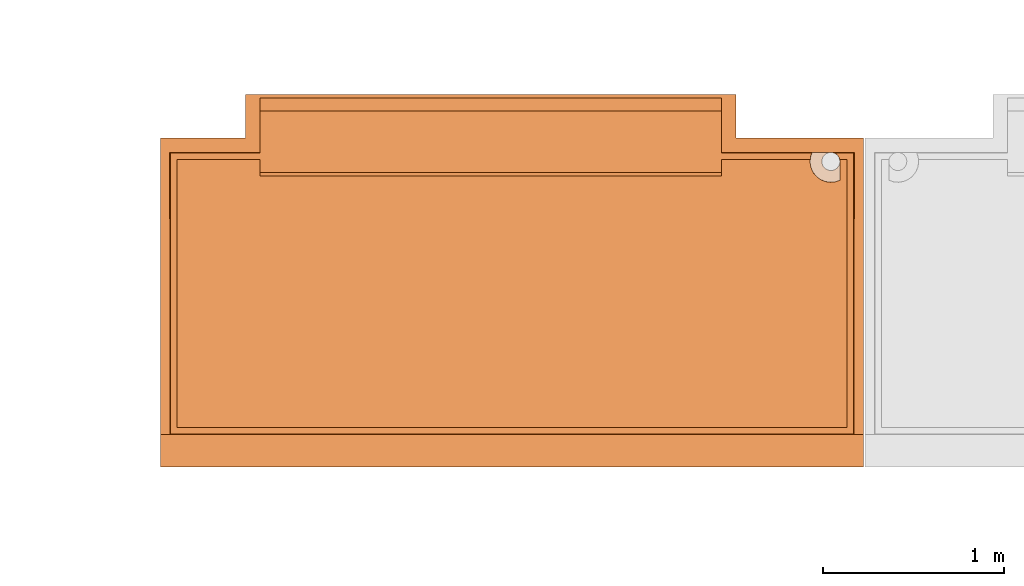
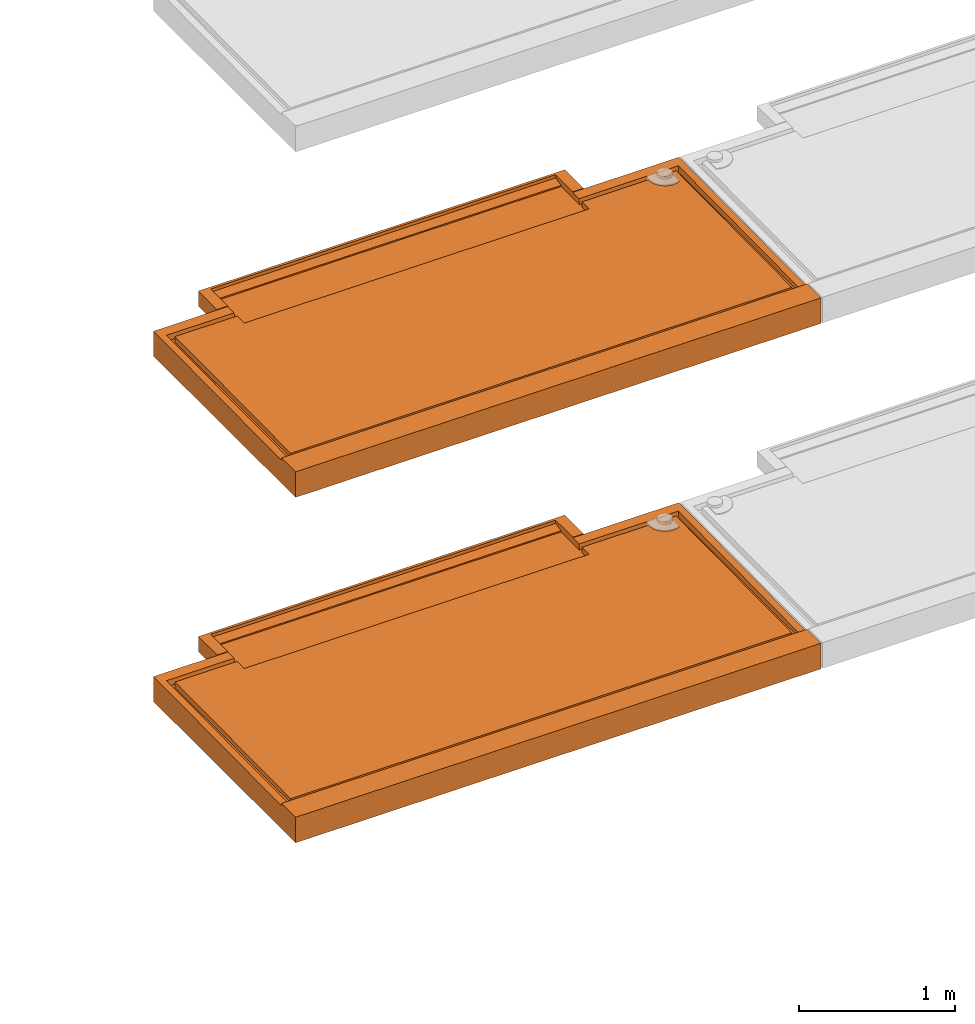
# One storey, part 9 of 31: 2 proxies, 2 elements without a shape of their own.
"""IFC2X3 building model written with IfcOpenShell, lengths in centimetres."""

from ifc_helpers import new_model, entity, si_unit, converted_unit, derived_unit, direction, frame, origin, place, context, subcontext, project, spatial, faceted_brep, source, transform, mapped, material, type_object, type_shapes, element, aggregate, save


model = new_model("IFC2X3")

# Units and contexts
model_context = context("Model", 3, precision=0.001, world=origin(), true_north=direction((6.12303176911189e-17, 1.0)))
body_context = subcontext(model_context, "Body", "Model", "MODEL_VIEW")
ifc_project = project(units=[si_unit("LENGTHUNIT", "METRE", prefix="CENTI"), si_unit("AREAUNIT", "SQUARE_METRE"), si_unit("VOLUMEUNIT", "CUBIC_METRE"), converted_unit("PLANEANGLEUNIT", "DEGREE", entity("IfcRatioMeasure", 0.0174532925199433), si_unit("PLANEANGLEUNIT", "RADIAN"), dimensions=[0, 0, 0, 0, 0, 0, 0]), si_unit("MASSUNIT", "GRAM", prefix="KILO"), derived_unit("MASSDENSITYUNIT", [(si_unit("MASSUNIT", "GRAM", prefix="KILO"), 1), (si_unit("LENGTHUNIT", "METRE"), -3)]), si_unit("TIMEUNIT", "SECOND"), si_unit("FREQUENCYUNIT", "HERTZ"), si_unit("THERMODYNAMICTEMPERATUREUNIT", "DEGREE_CELSIUS"), derived_unit("THERMALTRANSMITTANCEUNIT", [(si_unit("MASSUNIT", "GRAM", prefix="KILO"), 1), (si_unit("THERMODYNAMICTEMPERATUREUNIT", "KELVIN"), -1), (si_unit("TIMEUNIT", "SECOND"), -3)]), derived_unit("VOLUMETRICFLOWRATEUNIT", [(si_unit("LENGTHUNIT", "METRE"), 3), (si_unit("TIMEUNIT", "SECOND"), -1)]), si_unit("ELECTRICCURRENTUNIT", "AMPERE"), si_unit("ELECTRICVOLTAGEUNIT", "VOLT"), si_unit("POWERUNIT", "WATT"), si_unit("FORCEUNIT", "NEWTON"), si_unit("ILLUMINANCEUNIT", "LUX"), si_unit("LUMINOUSFLUXUNIT", "LUMEN"), si_unit("LUMINOUSINTENSITYUNIT", "CANDELA"), derived_unit("USERDEFINED", [(si_unit("MASSUNIT", "GRAM", prefix="KILO"), -1), (si_unit("LENGTHUNIT", "METRE"), -2), (si_unit("TIMEUNIT", "SECOND"), 3), (si_unit("LUMINOUSFLUXUNIT", "LUMEN"), 1)]), derived_unit("LINEARVELOCITYUNIT", [(si_unit("LENGTHUNIT", "METRE"), 1), (si_unit("TIMEUNIT", "SECOND"), -1)]), si_unit("PRESSUREUNIT", "PASCAL"), derived_unit("USERDEFINED", [(si_unit("LENGTHUNIT", "METRE"), -2), (si_unit("MASSUNIT", "GRAM", prefix="KILO"), 1), (si_unit("TIMEUNIT", "SECOND"), -2)])], contexts=[model_context])

# Site, building, storey
site_placement = place(None, origin())
site = spatial("IfcSite", under=ifc_project, at=site_placement, Name="Default", CompositionType="ELEMENT")
building_placement = place(site_placement, origin())
building = spatial("IfcBuilding", under=site, at=building_placement, Name="CAGE 03", CompositionType="ELEMENT")
storey_placement = place(building_placement, frame((0.0, 0.0, -400.0)))
storey = spatial("IfcBuildingStorey", under=building, at=storey_placement, Name="±0.00", CompositionType="ELEMENT", Elevation=-400.0)

# Assembly, proxy
assembly_1_placement = place(storey_placement, origin())
assembly_1 = element("IfcElementAssembly", 1, at=assembly_1_placement, inside=storey, Name="Assemblage Modèles génériques:BALCON TYPE 03", ObjectType="Assemblage Modèles génériques:BALCON TYPE 03", AssemblyPlace="NOTDEFINED", PredefinedType="USERDEFINED")
ifc_material = material(Name="Béton, panneaux préfa 30/37")
building_element_proxy_type_1 = type_object("IfcBuildingElementProxyType", Name="balcon préfa type 03", PredefinedType="NOTDEFINED", material=ifc_material)
shared_shape_1 = source(origin(), body_context, "Body", "Brep", [
    faceted_brep([(9.0, 22.0, 15.0), (9.0, 170.0, 15.0), (55.0, 170.0, 15.0), (55.0, 163.0, 15.0), (310.0, 163.0, 15.0), (310.0, 170.0, 15.0), (359.043560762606, 170.0, 15.0), (359.350476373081, 171.817467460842, 15.0), (359.943813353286, 173.56255668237, 15.0), (310.0, 173.562556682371, 15.0), (310.0, 197.0, 15.0), (55.0, 197.0, 15.0), (55.0, 173.562556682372, 15.0), (5.43744331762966, 173.562556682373, 15.0), (5.4374433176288, 18.4374433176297, 15.0), (383.06255668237, 18.4374433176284, 15.0), (383.06255668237, 173.56255668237, 15.0), (372.545257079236, 173.56255668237, 15.0), (373.559340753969, 172.954798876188, 15.0), (374.402378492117, 172.125930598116, 15.0), (375.027236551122, 171.122293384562, 15.0), (375.398979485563, 170.0, 15.0), (379.5, 170.0, 15.0), (379.499999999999, 22.0, 15.0), (47.0, 182.0, 20.0), (55.0, 182.0, 20.0), (55.0, 204.0, 20.0), (310.0, 204.0, 20.0), (310.0, 182.0, 20.0), (318.0, 182.0, 20.0), (318.0, 198.0, 20.0), (318.0, 206.0, 20.0), (47.0, 206.0, 20.0), (47.0, 198.0, 20.0), (388.499999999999, 0.0, 20.0), (388.499999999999, 18.0, 20.0), (0.0, 18.0, 20.0), (0.0, 0.0, 20.0), (47.0, 206.0, 8.0), (318.0, 206.0, 8.0), (4.0, 180.0, 0.0), (4.0, 182.0, 0.0), (365.499999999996, 169.0, 0.0), (365.67037086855, 167.705904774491, 0.0), (4.0, 4.0, 0.0), (365.67037086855, 170.294095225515, 0.0), (366.169872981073, 171.500000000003, 0.0), (366.964466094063, 172.535533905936, 0.0), (368.0, 173.330127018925, 0.0), (384.5, 182.0, 0.0), (369.205904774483, 173.829629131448, 0.0), (370.499999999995, 174.0, 0.0), (371.794095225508, 173.829629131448, 0.0), (373.0, 173.330127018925, 0.0), (384.5, 180.0, 0.0), (374.035533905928, 172.535533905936, 0.0), (374.830127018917, 171.500000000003, 0.0), (375.329629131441, 170.294095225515, 0.0), (375.499999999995, 169.0, 0.0), (375.329629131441, 167.705904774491, 0.0), (374.830127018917, 166.500000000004, 0.0), (384.499999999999, 4.0, 0.0), (366.169872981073, 166.500000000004, 0.0), (366.964466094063, 165.46446609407, 0.0), (368.0, 164.669872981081, 0.0), (369.205904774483, 164.170370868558, 0.0), (370.499999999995, 164.0, 0.0), (374.035533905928, 165.46446609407, 0.0), (373.0, 164.669872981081, 0.0), (371.794095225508, 164.170370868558, 0.0), (0.0, 182.0, 0.0), (3.0, 182.0, 0.0), (3.0, 180.0, 0.0), (3.0, 3.0, 0.0), (385.499999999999, 3.0, 0.0), (385.5, 180.0, 0.0), (385.5, 182.0, 0.0), (388.5, 182.0, 0.0), (388.5, 180.0, 0.0), (388.499999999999, 0.0, 0.0), (0.0, 0.0, 0.0), (0.0, 180.0, 0.0), (0.0, 18.177465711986, 17.9715576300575), (5.17746571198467, 18.177465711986, 17.9715576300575), (5.04116008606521, 173.958839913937, 19.5295380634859), (55.0, 173.958839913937, 19.5295380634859), (55.0, 180.0, 19.5899561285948), (55.0, 182.0, 19.6099582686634), (47.0, 182.0, 19.6099582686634), (0.0, 182.0, 19.6099582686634), (0.0, 180.0, 19.5899561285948), (9.0, 22.0, 18.0097870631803), (379.499999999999, 22.0, 18.0097870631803), (379.499999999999, 170.0, 19.4899454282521), (375.398979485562, 170.0, 19.4899454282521), (375.474680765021, 169.502544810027, 19.4849703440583), (375.499999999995, 169.0, 19.4799443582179), (375.499999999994, 158.643842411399, 19.3763717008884), (372.960376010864, 157.766276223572, 19.3675950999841), (370.286434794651, 157.501983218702, 19.3649518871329), (367.624152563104, 157.865391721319, 19.3685863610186), (365.118869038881, 158.836662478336, 19.3783001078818), (362.907353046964, 160.362771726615, 19.3935628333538), (361.110336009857, 162.360405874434, 19.413541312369), (359.82592095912, 164.720509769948, 19.4371448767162), (359.124226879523, 167.31424025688, 19.463084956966), (359.043560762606, 170.0, 19.4899454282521), (310.0, 170.0, 19.4899454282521), (310.0, 161.001802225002, 19.3999538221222), (55.0, 161.001802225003, 19.3999538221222), (55.0, 170.0, 19.4899454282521), (9.0, 170.0, 19.4899454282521), (318.0, 182.0, 19.6099582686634), (310.0, 182.0, 19.6099582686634), (310.0, 180.0, 19.5899561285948), (310.0, 173.958839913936, 19.5295380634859), (360.124070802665, 173.958839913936, 19.5295380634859), (360.133936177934, 173.979429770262, 19.5297439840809), (360.14384241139, 174.0, 19.5299497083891), (370.499999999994, 174.0, 19.5299497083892), (370.820780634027, 173.989699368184, 19.5298466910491), (371.140239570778, 173.958839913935, 19.5295380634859), (383.458839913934, 173.958839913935, 19.5295380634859), (383.322534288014, 18.1774657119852, 17.9715576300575), (388.499999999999, 18.1774657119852, 17.9715576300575), (388.5, 180.0, 19.5899561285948), (388.5, 182.0, 19.6099582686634), (55.0, 161.026803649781, 16.9000788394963), (310.0, 161.02680364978, 16.9000788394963), (310.0, 197.0, 15.9713250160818), (310.0, 204.0, 17.4999999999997), (310.0, 163.0, 16.9198129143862), (55.0, 163.0, 16.9198129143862), (3.0, 3.0, 1.0), (385.499999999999, 3.0, 1.0), (55.0, 204.0, 17.4999999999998), (47.0, 198.0, 8.0), (318.0, 198.0, 8.0), (318.0, 182.0, 8.0), (47.0, 182.0, 8.0), (385.5, 182.0, 1.0), (384.5, 182.0, 1.46630765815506), (4.0, 182.0, 1.46630765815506), (3.0, 182.0, 1.0), (55.0, 197.0, 15.9713250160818), (4.0, 4.0, 1.46630765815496), (384.499999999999, 4.0, 1.46630765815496), (360.032066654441, 173.76155137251, 17.2745197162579), (360.078068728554, 173.860195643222, 18.4020288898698), (360.10106976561, 173.909517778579, 18.9657834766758), (360.112570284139, 173.934178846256, 19.2476607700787), (359.987940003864, 173.66205402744, 16.1372598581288), (371.501449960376, 173.898683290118, 18.8419447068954), (371.857288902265, 173.812251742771, 17.854027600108), (372.205847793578, 173.700008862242, 16.5710856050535), (385.5, 180.0, 1.0), (384.5, 180.0, 1.46630765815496), (3.0, 180.0, 1.0), (4.0, 180.0, 1.46630765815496), (359.23557807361, 171.315771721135, 7.69999999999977), (359.011272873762, 168.49093318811, 7.69999999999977), (359.484546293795, 165.697004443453, 7.69999999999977), (360.626661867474, 163.103628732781, 7.69999999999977), (362.36827201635, 160.868272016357, 7.69999999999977), (364.603628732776, 159.12666186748, 7.69999999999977), (367.197004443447, 157.984546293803, 7.69999999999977), (369.990933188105, 157.51127287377, 7.69999999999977), (372.81577172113, 157.735578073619, 7.69999999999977), (375.499999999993, 158.643842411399, 7.69999999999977), (375.499999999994, 169.0, 7.69999999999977), (375.32962913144, 167.705904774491, 7.69999999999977), (374.830127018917, 166.500000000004, 7.69999999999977), (374.035533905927, 165.46446609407, 7.69999999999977), (373.0, 164.669872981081, 7.69999999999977), (371.794095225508, 164.170370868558, 7.69999999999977), (370.499999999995, 164.0, 7.69999999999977), (369.205904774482, 164.170370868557, 7.69999999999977), (368.0, 164.66987298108, 7.69999999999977), (366.964466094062, 165.46446609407, 7.69999999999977), (366.169872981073, 166.500000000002, 7.69999999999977), (365.67037086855, 167.705904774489, 7.69999999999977), (365.499999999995, 169.0, 7.69999999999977), (365.670370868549, 170.294095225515, 7.69999999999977), (366.169872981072, 171.500000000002, 7.69999999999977), (366.964466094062, 172.535533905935, 7.69999999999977), (368.0, 173.330127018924, 7.69999999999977), (369.205904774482, 173.829629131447, 7.69999999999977), (370.49999999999, 174.0, 7.69999999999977), (360.143842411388, 174.0, 7.69999999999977), (360.14384241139, 174.0, 19.1602570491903), (360.14384241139, 174.0, 18.790571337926), (360.14384241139, 174.0, 18.0511999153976), (360.14384241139, 174.0, 16.5724570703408), (360.14384241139, 174.0, 15.0937142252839), (360.14384241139, 174.0, 13.6149713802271)], [[[0, 1, 2, 3, 4, 5, 6, 7, 8, 9, 10, 11, 12, 13, 14, 15, 16, 17, 18, 19, 20, 21, 22, 23]], [[24, 25, 26, 27, 28, 29, 30, 31, 32, 33]], [[34, 35, 36, 37]], [[38, 32, 31, 39]], [[40, 41, 42]], [[43, 40, 42]], [[43, 44, 40]], [[42, 41, 45]], [[45, 41, 46]], [[47, 46, 41]], [[48, 47, 41]], [[48, 41, 49]], [[49, 50, 48]], [[51, 50, 49]], [[52, 51, 49]], [[53, 52, 49]], [[54, 53, 49]], [[54, 55, 53]], [[56, 55, 54]], [[54, 57, 56]], [[58, 57, 54]], [[59, 58, 54]], [[54, 60, 59]], [[61, 60, 54]], [[61, 44, 62]], [[61, 62, 63]], [[61, 63, 64]], [[61, 64, 65]], [[61, 65, 66]], [[67, 60, 61]], [[67, 61, 68]], [[69, 68, 61]], [[61, 66, 69]], [[62, 44, 43]], [[70, 71, 72, 73, 74, 75, 76, 77, 78, 79, 80, 81]], [[37, 80, 79, 34]], [[82, 83, 84, 85, 86, 87, 88, 89, 90]], [[91, 92, 93, 94, 95, 96, 97, 98, 99, 100, 101, 102, 103, 104, 105, 106, 107, 108, 109, 110, 111]], [[112, 113, 114, 115, 116, 117, 118, 119, 120, 121, 122, 123, 124, 125, 126]], [[127, 109, 108, 128]], [[78, 77, 126, 125, 124, 35, 34, 79]], [[80, 37, 36, 82, 90, 89, 70, 81]], [[129, 10, 9, 115, 114, 113, 28, 27, 130]], [[107, 5, 4, 131, 128, 108]], [[92, 23, 22, 93]], [[123, 122, 16, 15]], [[0, 23, 92, 91]], [[132, 127, 128, 131]], [[3, 132, 131, 4]], [[123, 15, 14, 83, 82, 36, 35, 124]], [[133, 134, 74, 73]], [[26, 135, 130, 27]], [[136, 38, 39, 137, 138, 139]], [[89, 88, 139, 138, 112, 126, 77, 76, 140, 141, 49, 41, 142, 143, 71, 70]], [[135, 26, 25, 87, 86, 85, 12, 11, 144]], [[110, 109, 127, 132, 3, 2]], [[106, 6, 5, 107]], [[110, 2, 1, 111]], [[22, 21, 94, 93]], [[145, 44, 61, 146]], [[144, 11, 10, 129]], [[135, 144, 129, 130]], [[147, 148, 149, 150, 116, 115, 9, 8, 151]], [[85, 84, 13, 12]], [[122, 121, 152, 153, 154, 17, 16]], [[133, 145, 146, 134]], [[29, 28, 113, 112]], [[25, 24, 88, 87]], [[76, 75, 74, 134, 155, 140]], [[156, 146, 61, 54, 49, 141]], [[155, 134, 146, 156, 141, 140]], [[73, 72, 71, 143, 157, 133]], [[158, 142, 41, 40, 44, 145]], [[145, 133, 157, 143, 142, 158]], [[1, 0, 91, 111]], [[13, 84, 83, 14]], [[30, 29, 112, 138, 137, 39, 31]], [[33, 32, 38, 136, 139, 88, 24]], [[159, 160, 161, 162, 163, 164, 165, 166, 167, 168, 169, 170, 171, 172, 173, 174, 175, 176, 177, 178, 179, 180, 181, 182, 183, 184, 185, 186, 187, 188]], [[119, 118, 189, 190, 191, 192, 193, 194, 188, 187]], [[194, 8, 7]], [[159, 188, 7]], [[150, 189, 117]], [[151, 192, 147]], [[105, 160, 6]], [[7, 6, 159]], [[160, 159, 6]], [[105, 161, 160]], [[117, 116, 150]], [[189, 149, 190]], [[148, 191, 190]], [[6, 106, 105]], [[104, 161, 105]], [[149, 148, 190]], [[150, 149, 189]], [[188, 194, 7]], [[104, 162, 161]], [[163, 162, 103]], [[163, 102, 164]], [[99, 167, 166]], [[166, 165, 100]], [[165, 164, 101]], [[168, 167, 98]], [[148, 147, 191]], [[163, 103, 102]], [[164, 102, 101]], [[8, 193, 151]], [[8, 194, 193]], [[167, 99, 98]], [[118, 117, 189]], [[192, 191, 147]], [[97, 168, 98]], [[166, 100, 99]], [[100, 165, 101]], [[192, 151, 193]], [[104, 103, 162]], [[169, 168, 97, 96]], [[48, 50, 186, 185]], [[48, 185, 184, 47]], [[45, 46, 183, 182]], [[184, 183, 46, 47]], [[42, 45, 182, 181]], [[51, 187, 186, 50]], [[62, 43, 180, 179]], [[62, 179, 178, 63]], [[65, 64, 177, 176]], [[178, 177, 64, 63]], [[66, 65, 176, 175]], [[181, 180, 43, 42]], [[69, 174, 173, 68]], [[66, 175, 174, 69]], [[171, 170, 59, 60]], [[60, 67, 172, 171]], [[67, 68, 173, 172]], [[58, 59, 170, 169]], [[96, 95, 169]], [[21, 169, 95]], [[94, 21, 95]], [[57, 169, 21]], [[57, 58, 169]], [[20, 56, 57]], [[56, 20, 19]], [[19, 55, 56]], [[187, 51, 52]], [[53, 55, 18]], [[53, 17, 52]], [[19, 18, 55]], [[52, 152, 187]], [[53, 18, 17]], [[17, 154, 52]], [[152, 52, 153]], [[152, 121, 187]], [[153, 52, 154]], [[121, 120, 187]], [[187, 120, 119]], [[57, 21, 20]]]),
])
type_shapes(building_element_proxy_type_1, [shared_shape_1])
proxy_1_placement = place(assembly_1_placement, frame((6692.36582014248, 3796.6606660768, 990.0)))
proxy_1 = element("IfcBuildingElementProxy", 2, at=proxy_1_placement, type_object=building_element_proxy_type_1, material=ifc_material, Name="BY_STR_Balcon_préfa_03:balcon préfa type 03", ObjectType="balcon préfa type 03", context=body_context, shape_type="MappedRepresentation", body=[
    mapped(shared_shape_1, transform((0.0, 0.0, 0.0), scale=1.0)),
])
aggregate(assembly_1, [proxy_1])

assembly_2_placement = place(storey_placement, origin())
assembly_2 = element("IfcElementAssembly", 3, at=assembly_2_placement, inside=storey, Name="Assemblage Modèles génériques:BALCON TYPE 03", ObjectType="Assemblage Modèles génériques:BALCON TYPE 03", AssemblyPlace="NOTDEFINED", PredefinedType="USERDEFINED")
building_element_proxy_type_2 = type_object("IfcBuildingElementProxyType", Name="balcon préfa type 03", PredefinedType="NOTDEFINED", material=ifc_material)
shared_shape_2 = source(origin(), body_context, "Body", "Brep", [
    faceted_brep([(9.0, 22.0, 15.0), (9.0, 170.0, 15.0), (55.0, 170.0, 15.0), (55.0, 163.0, 15.0), (310.0, 163.0, 15.0), (310.0, 170.0, 15.0), (359.043560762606, 170.0, 15.0), (359.350476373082, 171.817467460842, 15.0), (359.943813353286, 173.56255668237, 15.0), (310.0, 173.562556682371, 15.0), (310.0, 197.0, 15.0), (55.0, 197.0, 15.0), (55.0, 173.562556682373, 15.0), (5.43744331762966, 173.562556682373, 15.0), (5.4374433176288, 18.4374433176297, 15.0), (383.06255668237, 18.4374433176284, 15.0), (383.06255668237, 173.56255668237, 15.0), (372.54525707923, 173.56255668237, 15.0), (373.559340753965, 172.954798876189, 15.0), (374.402378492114, 172.125930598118, 15.0), (375.027236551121, 171.122293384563, 15.0), (375.398979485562, 170.0, 15.0), (379.5, 170.0, 15.0), (379.499999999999, 22.0, 15.0), (47.0, 182.0, 20.0), (55.0, 182.0, 20.0), (55.0, 204.0, 20.0), (310.0, 204.0, 20.0), (310.0, 182.0, 20.0), (318.0, 182.0, 20.0), (318.0, 198.0, 20.0), (318.0, 206.0, 20.0), (47.0, 206.0, 20.0), (47.0, 198.0, 20.0), (388.499999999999, 0.0, 20.0), (388.499999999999, 18.0, 20.0), (0.0, 18.0, 20.0), (0.0, 0.0, 20.0), (47.0, 206.0, 8.0), (318.0, 206.0, 8.0), (4.0, 180.0, 0.0), (4.0, 182.0, 0.0), (365.499999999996, 169.0, 0.0), (365.67037086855, 167.705904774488, 0.0), (4.0, 4.0, 0.0), (365.67037086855, 170.294095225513, 0.0), (366.169872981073, 171.500000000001, 0.0), (366.964466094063, 172.535533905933, 0.0), (368.0, 173.330127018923, 0.0), (384.5, 182.0, 0.0), (369.205904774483, 173.829629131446, 0.0), (370.499999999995, 174.0, 0.0), (371.794095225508, 173.829629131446, 0.0), (373.0, 173.330127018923, 0.0), (384.5, 180.0, 0.0), (374.035533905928, 172.535533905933, 0.0), (374.830127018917, 171.500000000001, 0.0), (375.329629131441, 170.294095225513, 0.0), (375.499999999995, 169.0, 0.0), (375.329629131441, 167.705904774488, 0.0), (374.830127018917, 166.500000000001, 0.0), (384.499999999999, 4.0, 0.0), (366.169872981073, 166.500000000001, 0.0), (366.964466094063, 165.464466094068, 0.0), (368.0, 164.669872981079, 0.0), (369.205904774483, 164.170370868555, 0.0), (370.499999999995, 164.0, 0.0), (374.035533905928, 165.464466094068, 0.0), (373.0, 164.669872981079, 0.0), (371.794095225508, 164.170370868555, 0.0), (0.0, 182.0, 0.0), (3.0, 182.0, 0.0), (3.0, 180.0, 0.0), (3.0, 3.0, 0.0), (385.499999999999, 3.0, 0.0), (385.5, 180.0, 0.0), (385.5, 182.0, 0.0), (388.5, 182.0, 0.0), (388.5, 180.0, 0.0), (388.499999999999, 0.0, 0.0), (0.0, 0.0, 0.0), (0.0, 180.0, 0.0), (0.0, 18.177465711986, 17.9715576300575), (5.17746571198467, 18.177465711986, 17.9715576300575), (5.04116008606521, 173.958839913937, 19.5295380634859), (55.0, 173.958839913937, 19.5295380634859), (55.0, 180.0, 19.5899561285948), (55.0, 182.0, 19.6099582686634), (47.0, 182.0, 19.6099582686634), (0.0, 182.0, 19.6099582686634), (0.0, 180.0, 19.5899561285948), (9.0, 22.0, 18.0097870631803), (379.499999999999, 22.0, 18.0097870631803), (379.499999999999, 170.0, 19.4899454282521), (375.398979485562, 170.0, 19.4899454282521), (375.474680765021, 169.502544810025, 19.4849703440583), (375.499999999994, 169.0, 19.4799443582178), (375.499999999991, 158.643842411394, 19.3763717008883), (372.960376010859, 157.766276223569, 19.3675950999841), (370.286434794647, 157.5019832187, 19.3649518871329), (367.624152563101, 157.865391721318, 19.3685863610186), (365.118869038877, 158.836662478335, 19.3783001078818), (362.907353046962, 160.362771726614, 19.3935628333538), (361.110336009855, 162.360405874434, 19.413541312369), (359.825920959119, 164.720509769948, 19.4371448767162), (359.124226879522, 167.31424025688, 19.463084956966), (359.043560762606, 170.0, 19.4899454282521), (310.0, 170.0, 19.4899454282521), (310.0, 161.001802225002, 19.3999538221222), (55.0, 161.001802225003, 19.3999538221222), (55.0, 170.0, 19.4899454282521), (9.0, 170.0, 19.4899454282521), (318.0, 182.0, 19.6099582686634), (310.0, 182.0, 19.6099582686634), (310.0, 180.0, 19.5899561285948), (310.0, 173.958839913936, 19.5295380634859), (360.124070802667, 173.958839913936, 19.5295380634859), (360.133936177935, 173.979429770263, 19.5297439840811), (360.143842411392, 174.0, 19.5299497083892), (370.499999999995, 174.0, 19.5299497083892), (370.820780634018, 173.989699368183, 19.529846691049), (371.140239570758, 173.958839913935, 19.5295380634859), (383.458839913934, 173.958839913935, 19.5295380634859), (383.322534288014, 18.1774657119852, 17.9715576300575), (388.499999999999, 18.1774657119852, 17.9715576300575), (388.5, 180.0, 19.5899561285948), (388.5, 182.0, 19.6099582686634), (55.0, 161.026803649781, 16.9000788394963), (310.0, 161.02680364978, 16.9000788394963), (310.0, 197.0, 15.9713250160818), (310.0, 204.0, 17.4999999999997), (310.0, 163.0, 16.9198129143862), (55.0, 163.0, 16.9198129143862), (3.0, 3.0, 1.0), (385.499999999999, 3.0, 1.0), (55.0, 204.0, 17.4999999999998), (47.0, 198.0, 8.0), (318.0, 198.0, 8.0), (318.0, 182.0, 8.0), (47.0, 182.0, 8.0), (385.5, 182.0, 1.0), (384.5, 182.0, 1.46630765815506), (4.0, 182.0, 1.46630765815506), (3.0, 182.0, 1.0), (55.0, 197.0, 15.9713250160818), (4.0, 4.0, 1.46630765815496), (384.499999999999, 4.0, 1.46630765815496), (360.032066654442, 173.76155137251, 17.2745197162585), (360.078068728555, 173.860195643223, 18.4020288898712), (360.101069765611, 173.90951777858, 18.9657834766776), (360.11257028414, 173.934178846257, 19.2476607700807), (359.987940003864, 173.66205402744, 16.1372598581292), (371.501449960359, 173.898683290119, 18.8419447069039), (371.857288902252, 173.812251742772, 17.8540276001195), (372.205847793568, 173.700008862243, 16.5710856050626), (385.5, 180.0, 1.0), (384.5, 180.0, 1.46630765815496), (3.0, 180.0, 1.0), (4.0, 180.0, 1.46630765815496), (359.23557807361, 171.315771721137, 7.69999999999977), (359.011272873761, 168.490933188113, 7.69999999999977), (359.484546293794, 165.697004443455, 7.69999999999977), (360.626661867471, 163.103628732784, 7.69999999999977), (362.368272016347, 160.868272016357, 7.69999999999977), (364.603628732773, 159.12666186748, 7.69999999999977), (367.197004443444, 157.984546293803, 7.69999999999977), (369.990933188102, 157.511272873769, 7.69999999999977), (372.815771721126, 157.735578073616, 7.69999999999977), (375.499999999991, 158.643842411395, 7.69999999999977), (375.499999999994, 169.0, 7.69999999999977), (375.329629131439, 167.705904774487, 7.69999999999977), (374.830127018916, 166.5, 7.69999999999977), (374.035533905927, 165.464466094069, 7.69999999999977), (373.0, 164.669872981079, 7.69999999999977), (371.794095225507, 164.170370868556, 7.69999999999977), (370.499999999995, 164.0, 7.69999999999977), (369.205904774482, 164.170370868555, 7.69999999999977), (368.0, 164.669872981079, 7.69999999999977), (366.964466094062, 165.464466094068, 7.69999999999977), (366.169872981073, 166.500000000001, 7.69999999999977), (365.67037086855, 167.705904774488, 7.69999999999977), (365.499999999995, 169.0, 7.69999999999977), (365.670370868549, 170.294095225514, 7.69999999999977), (366.169872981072, 171.500000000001, 7.69999999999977), (366.964466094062, 172.535533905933, 7.69999999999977), (368.0, 173.330127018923, 7.69999999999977), (369.205904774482, 173.829629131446, 7.69999999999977), (370.499999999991, 174.0, 7.69999999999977), (360.14384241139, 174.0, 7.69999999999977), (360.143842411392, 174.0, 19.1602574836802), (360.143842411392, 174.0, 18.7905722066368), (360.143842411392, 174.0, 18.0512016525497), (360.143842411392, 174.0, 16.5724605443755), (360.143842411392, 174.0, 15.0937194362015), (360.143842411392, 174.0, 13.6149783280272)], [[[0, 1, 2, 3, 4, 5, 6, 7, 8, 9, 10, 11, 12, 13, 14, 15, 16, 17, 18, 19, 20, 21, 22, 23]], [[24, 25, 26, 27, 28, 29, 30, 31, 32, 33]], [[34, 35, 36, 37]], [[38, 32, 31, 39]], [[40, 41, 42]], [[43, 40, 42]], [[43, 44, 40]], [[42, 41, 45]], [[45, 41, 46]], [[47, 46, 41]], [[48, 47, 41]], [[48, 41, 49]], [[49, 50, 48]], [[51, 50, 49]], [[52, 51, 49]], [[53, 52, 49]], [[54, 53, 49]], [[54, 55, 53]], [[56, 55, 54]], [[54, 57, 56]], [[58, 57, 54]], [[59, 58, 54]], [[54, 60, 59]], [[61, 60, 54]], [[61, 44, 62]], [[61, 62, 63]], [[61, 63, 64]], [[61, 64, 65]], [[61, 65, 66]], [[67, 60, 61]], [[67, 61, 68]], [[69, 68, 61]], [[61, 66, 69]], [[62, 44, 43]], [[70, 71, 72, 73, 74, 75, 76, 77, 78, 79, 80, 81]], [[37, 80, 79, 34]], [[82, 83, 84, 85, 86, 87, 88, 89, 90]], [[91, 92, 93, 94, 95, 96, 97, 98, 99, 100, 101, 102, 103, 104, 105, 106, 107, 108, 109, 110, 111]], [[112, 113, 114, 115, 116, 117, 118, 119, 120, 121, 122, 123, 124, 125, 126]], [[127, 109, 108, 128]], [[78, 77, 126, 125, 124, 35, 34, 79]], [[80, 37, 36, 82, 90, 89, 70, 81]], [[129, 10, 9, 115, 114, 113, 28, 27, 130]], [[107, 5, 4, 131, 128, 108]], [[92, 23, 22, 93]], [[123, 122, 16, 15]], [[0, 23, 92, 91]], [[132, 127, 128, 131]], [[3, 132, 131, 4]], [[123, 15, 14, 83, 82, 36, 35, 124]], [[133, 134, 74, 73]], [[26, 135, 130, 27]], [[136, 38, 39, 137, 138, 139]], [[89, 88, 139, 138, 112, 126, 77, 76, 140, 141, 49, 41, 142, 143, 71, 70]], [[135, 26, 25, 87, 86, 85, 12, 11, 144]], [[110, 109, 127, 132, 3, 2]], [[106, 6, 5, 107]], [[110, 2, 1, 111]], [[22, 21, 94, 93]], [[145, 44, 61, 146]], [[144, 11, 10, 129]], [[147, 148, 149, 150, 116, 115, 9, 8, 151]], [[85, 84, 13, 12]], [[122, 121, 152, 153, 154, 17, 16]], [[133, 145, 146, 134]], [[135, 144, 129, 130]], [[29, 28, 113, 112]], [[25, 24, 88, 87]], [[76, 75, 74, 134, 155, 140]], [[156, 146, 61, 54, 49, 141]], [[155, 134, 146, 156, 141, 140]], [[73, 72, 71, 143, 157, 133]], [[158, 142, 41, 40, 44, 145]], [[145, 133, 157, 143, 142, 158]], [[1, 0, 91, 111]], [[13, 84, 83, 14]], [[30, 29, 112, 138, 137, 39, 31]], [[33, 32, 38, 136, 139, 88, 24]], [[159, 160, 161, 162, 163, 164, 165, 166, 167, 168, 169, 170, 171, 172, 173, 174, 175, 176, 177, 178, 179, 180, 181, 182, 183, 184, 185, 186, 187, 188]], [[119, 118, 189, 190, 191, 192, 193, 194, 188, 187]], [[194, 8, 7]], [[159, 188, 7]], [[150, 189, 117]], [[151, 192, 147]], [[105, 160, 6]], [[7, 6, 159]], [[160, 159, 6]], [[105, 161, 160]], [[117, 116, 150]], [[189, 149, 190]], [[148, 191, 190]], [[6, 106, 105]], [[104, 161, 105]], [[149, 148, 190]], [[150, 149, 189]], [[188, 194, 7]], [[104, 162, 161]], [[163, 162, 103]], [[163, 102, 164]], [[99, 167, 166]], [[166, 165, 100]], [[165, 164, 101]], [[168, 167, 98]], [[148, 147, 191]], [[163, 103, 102]], [[164, 102, 101]], [[8, 193, 151]], [[8, 194, 193]], [[167, 99, 98]], [[118, 117, 189]], [[192, 191, 147]], [[97, 168, 98]], [[166, 100, 99]], [[100, 165, 101]], [[192, 151, 193]], [[104, 103, 162]], [[169, 168, 97, 96]], [[48, 50, 186, 185]], [[48, 185, 184, 47]], [[45, 46, 183, 182]], [[184, 183, 46, 47]], [[42, 45, 182, 181]], [[51, 187, 186, 50]], [[62, 43, 180, 179]], [[62, 179, 178, 63]], [[65, 64, 177, 176]], [[178, 177, 64, 63]], [[66, 65, 176, 175]], [[181, 180, 43, 42]], [[69, 174, 173, 68]], [[66, 175, 174, 69]], [[171, 170, 59, 60]], [[60, 67, 172, 171]], [[67, 68, 173, 172]], [[58, 59, 170, 169]], [[96, 95, 169]], [[21, 169, 95]], [[94, 21, 95]], [[57, 169, 21]], [[57, 58, 169]], [[20, 56, 57]], [[56, 20, 19]], [[19, 55, 56]], [[187, 51, 52]], [[53, 55, 18]], [[53, 17, 52]], [[19, 18, 55]], [[52, 152, 187]], [[53, 18, 17]], [[17, 154, 52]], [[152, 52, 153]], [[152, 121, 187]], [[153, 52, 154]], [[121, 120, 187]], [[187, 120, 119]], [[57, 21, 20]]]),
])
type_shapes(building_element_proxy_type_2, [shared_shape_2])
proxy_2_placement = place(assembly_2_placement, frame((6692.36582014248, 3796.6606660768, 1260.0)))
proxy_2 = element("IfcBuildingElementProxy", 4, at=proxy_2_placement, type_object=building_element_proxy_type_2, material=ifc_material, Name="BY_STR_Balcon_préfa_03:balcon préfa type 03", ObjectType="balcon préfa type 03", context=body_context, shape_type="MappedRepresentation", body=[
    mapped(shared_shape_2, transform((0.0, 0.0, 0.0), scale=1.0)),
])
aggregate(assembly_2, [proxy_2])

save(model, "model.ifc")
